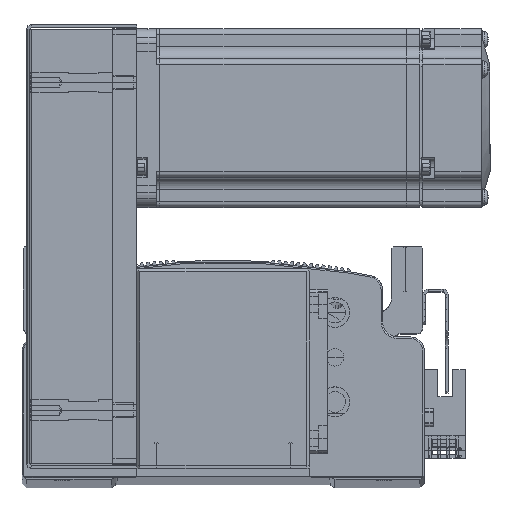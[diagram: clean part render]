
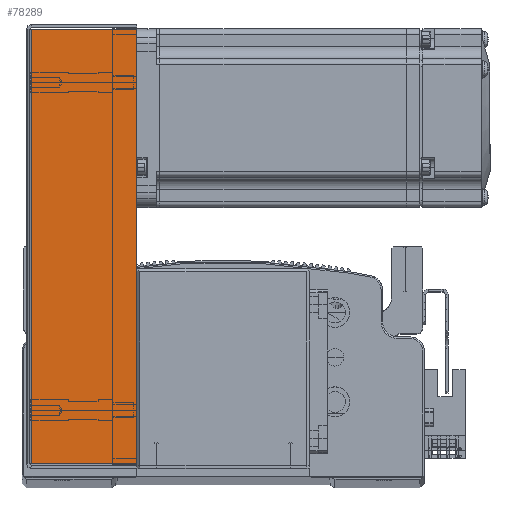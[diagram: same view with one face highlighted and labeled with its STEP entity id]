
A CAD part, top view. The second image highlights one B-rep face of the part: STEP entity #78289.
In plain terms, the highlighted planar face has unit normal (0, 0, 1).
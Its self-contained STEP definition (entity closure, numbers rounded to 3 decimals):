
#6034 = CARTESIAN_POINT ( 'NONE',  ( 0., 36., 34.5 ) ) ;
#6059 = DIRECTION ( 'NONE',  ( -1., 0., 0. ) ) ;
#6154 = DIRECTION ( 'NONE',  ( 0., 1., 0. ) ) ;
#6156 = CARTESIAN_POINT ( 'NONE',  ( -72.793, 0., 34.5 ) ) ;
#6359 = CARTESIAN_POINT ( 'NONE',  ( -74.5, 0.737, 34.5 ) ) ;
#6360 = DIRECTION ( 'NONE',  ( -1., 0., 0. ) ) ;
#6616 = CARTESIAN_POINT ( 'NONE',  ( 72.793, 0., 34.5 ) ) ;
#6694 = DIRECTION ( 'NONE',  ( 0., 1., 0. ) ) ;
#19342 = ORIENTED_EDGE ( 'NONE', *, *, #67772, .T. ) ;
#19401 = ORIENTED_EDGE ( 'NONE', *, *, #67912, .T. ) ;
#19402 = ORIENTED_EDGE ( 'NONE', *, *, #67830, .F. ) ;
#21240 = VECTOR ( 'NONE', #6059, 1000. ) ;
#21244 = LINE ( 'NONE', #6034, #21240 ) ;
#21282 = VECTOR ( 'NONE', #6360, 1000. ) ;
#21292 = LINE ( 'NONE', #6156, #21298 ) ;
#21298 = VECTOR ( 'NONE', #6154, 1000. ) ;
#21304 = LINE ( 'NONE', #6359, #21282 ) ;
#21312 = LINE ( 'NONE', #6616, #21358 ) ;
#21358 = VECTOR ( 'NONE', #6694, 1000. ) ;
#29584 = ORIENTED_EDGE ( 'NONE', *, *, #67883, .F. ) ;
#35928 = CARTESIAN_POINT ( 'NONE',  ( -72.793, 0.737, 34.5 ) ) ;
#35935 = CARTESIAN_POINT ( 'NONE',  ( -72.793, 36., 34.5 ) ) ;
#35936 = CARTESIAN_POINT ( 'NONE',  ( 72.793, 0.737, 34.5 ) ) ;
#36035 = CARTESIAN_POINT ( 'NONE',  ( 72.793, 36., 34.5 ) ) ;
#54096 = EDGE_LOOP ( 'NONE', ( #29584, #19401, #19342, #19402 ) ) ;
#67119 = DIRECTION ( 'NONE',  ( 0., 0., -1. ) ) ;
#67155 = PLANE ( 'NONE',  #75290 ) ;
#67205 = CARTESIAN_POINT ( 'NONE',  ( 0., 0., 34.5 ) ) ;
#67209 = DIRECTION ( 'NONE',  ( -1., 0., 0. ) ) ;
#67772 = EDGE_CURVE ( 'NONE', #81335, #81271, #21244, .T. ) ;
#67830 = EDGE_CURVE ( 'NONE', #81311, #81271, #21292, .T. ) ;
#67883 = EDGE_CURVE ( 'NONE', #81290, #81311, #21304, .T. ) ;
#67912 = EDGE_CURVE ( 'NONE', #81290, #81335, #21312, .T. ) ;
#73500 = FACE_OUTER_BOUND ( 'NONE', #54096, .T. ) ;
#75290 = AXIS2_PLACEMENT_3D ( 'NONE', #67205, #67119, #67209 ) ;
#78289 = ADVANCED_FACE ( 'NONE', ( #73500 ), #67155, .F. ) ;
#81271 = VERTEX_POINT ( 'NONE', #35935 ) ;
#81290 = VERTEX_POINT ( 'NONE', #35936 ) ;
#81311 = VERTEX_POINT ( 'NONE', #35928 ) ;
#81335 = VERTEX_POINT ( 'NONE', #36035 ) ;
